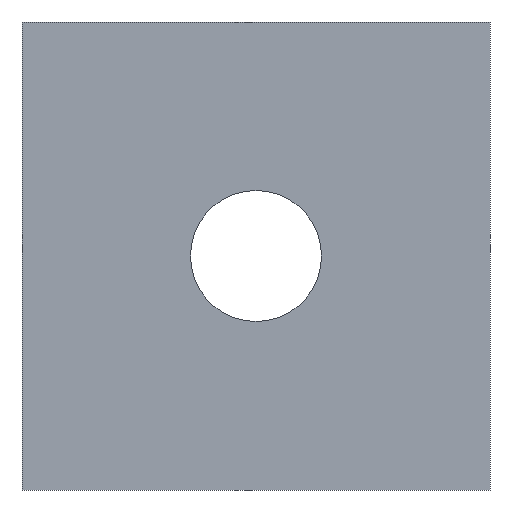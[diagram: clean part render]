
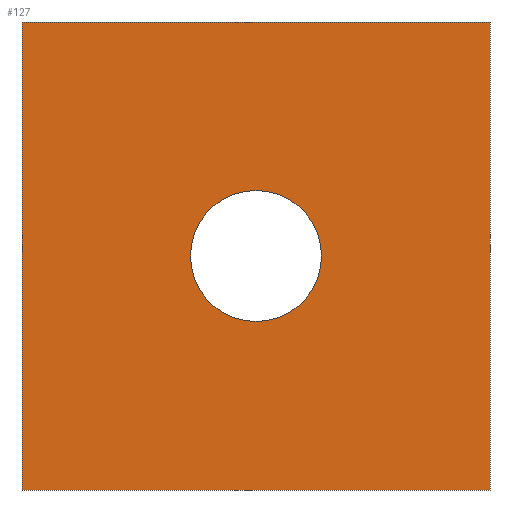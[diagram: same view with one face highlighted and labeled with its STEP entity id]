
A CAD part, front view. The second image highlights one B-rep face of the part: STEP entity #127.
In plain terms, the highlighted planar face has unit normal (0, -1, 0).
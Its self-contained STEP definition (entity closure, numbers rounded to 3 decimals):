
#21=CIRCLE('',#148,2.1);
#31=ORIENTED_EDGE('',*,*,#52,.T.);
#32=ORIENTED_EDGE('',*,*,#59,.F.);
#33=ORIENTED_EDGE('',*,*,#58,.F.);
#34=ORIENTED_EDGE('',*,*,#60,.T.);
#35=ORIENTED_EDGE('',*,*,#61,.T.);
#52=EDGE_CURVE('',#67,#65,#76,.T.);
#58=EDGE_CURVE('',#72,#69,#82,.T.);
#59=EDGE_CURVE('',#69,#65,#83,.T.);
#60=EDGE_CURVE('',#72,#67,#84,.T.);
#61=EDGE_CURVE('',#73,#73,#21,.T.);
#65=VERTEX_POINT('',#189);
#67=VERTEX_POINT('',#192);
#69=VERTEX_POINT('',#198);
#72=VERTEX_POINT('',#203);
#73=VERTEX_POINT('',#209);
#76=LINE('',#191,#88);
#82=LINE('',#204,#94);
#83=LINE('',#206,#95);
#84=LINE('',#207,#96);
#88=VECTOR('',#159,1000.);
#94=VECTOR('',#167,1000.);
#95=VECTOR('',#170,1000.);
#96=VECTOR('',#171,1000.);
#101=EDGE_LOOP('',(#31,#32,#33,#34));
#102=EDGE_LOOP('',(#35));
#111=FACE_BOUND('',#101,.T.);
#112=FACE_BOUND('',#102,.T.);
#121=PLANE('',#147);
#127=ADVANCED_FACE('',(#111,#112),#121,.F.);
#147=AXIS2_PLACEMENT_3D('',#205,#168,#169);
#148=AXIS2_PLACEMENT_3D('',#208,#172,#173);
#159=DIRECTION('',(0.,0.,1.));
#167=DIRECTION('',(0.,0.,1.));
#168=DIRECTION('',(0.,1.,0.));
#169=DIRECTION('',(0.,0.,1.));
#170=DIRECTION('',(1.,0.,0.));
#171=DIRECTION('',(1.,0.,0.));
#172=DIRECTION('',(0.,1.,0.));
#173=DIRECTION('',(0.,0.,1.));
#189=CARTESIAN_POINT('',(-1914.402,1976.816,-1928.879));
#191=CARTESIAN_POINT('',(-1914.402,1976.816,-1928.879));
#192=CARTESIAN_POINT('',(-1914.402,1976.816,-1943.879));
#198=CARTESIAN_POINT('',(-1929.402,1976.816,-1928.879));
#203=CARTESIAN_POINT('',(-1929.402,1976.816,-1943.879));
#204=CARTESIAN_POINT('',(-1929.402,1976.816,-1928.879));
#205=CARTESIAN_POINT('',(-1929.402,1976.816,-1928.879));
#206=CARTESIAN_POINT('',(-1929.402,1976.816,-1928.879));
#207=CARTESIAN_POINT('',(-1929.402,1976.816,-1943.879));
#208=CARTESIAN_POINT('',(-1921.902,1976.816,-1936.379));
#209=CARTESIAN_POINT('',(-1921.902,1976.816,-1934.279));
